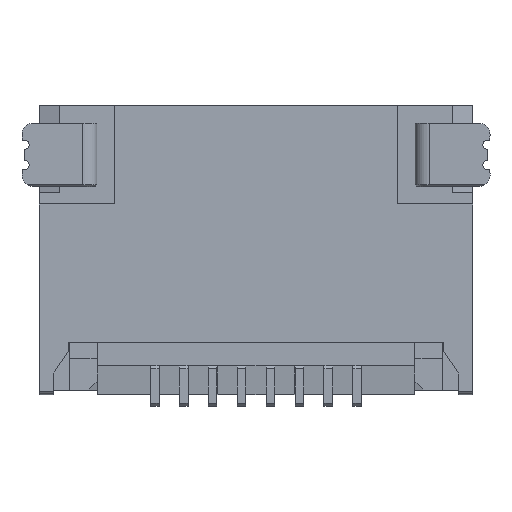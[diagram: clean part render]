
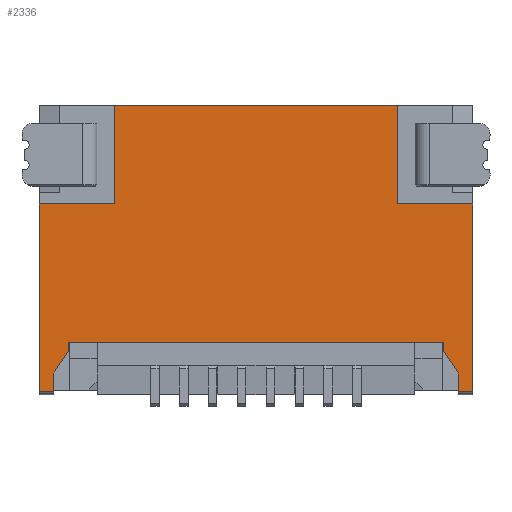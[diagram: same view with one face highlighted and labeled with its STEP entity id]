
A CAD part, front view. The second image highlights one B-rep face of the part: STEP entity #2336.
In plain terms, the highlighted planar face has unit normal (0, -1, 0).
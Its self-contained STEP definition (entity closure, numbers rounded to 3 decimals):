
#28 = CARTESIAN_POINT ( 'NONE',  ( 8., 0.05, 3.5 ) ) ;
#48 = DIRECTION ( 'NONE',  ( 1., 0., 0. ) ) ;
#166 = DIRECTION ( 'NONE',  ( 0., 0., 1. ) ) ;
#178 = EDGE_CURVE ( 'NONE', #4679, #5933, #5283, .T. ) ;
#260 = CARTESIAN_POINT ( 'NONE',  ( -3.5, 0.05, 0.248 ) ) ;
#300 = ORIENTED_EDGE ( 'NONE', *, *, #4858, .F. ) ;
#305 = VECTOR ( 'NONE', #2780, 1000. ) ;
#347 = CARTESIAN_POINT ( 'NONE',  ( 3.75, 0.05, 2.685 ) ) ;
#417 = VECTOR ( 'NONE', #3793, 1000. ) ;
#419 = VERTEX_POINT ( 'NONE', #1356 ) ;
#429 = FACE_OUTER_BOUND ( 'NONE', #4729, .T. ) ;
#550 = DIRECTION ( 'NONE',  ( 0., 0., -1. ) ) ;
#561 = EDGE_CURVE ( 'NONE', #2076, #5244, #3256, .T. ) ;
#599 = LINE ( 'NONE', #3841, #417 ) ;
#678 = DIRECTION ( 'NONE',  ( -0.555, 0., 0.832 ) ) ;
#683 = VERTEX_POINT ( 'NONE', #5431 ) ;
#700 = EDGE_CURVE ( 'NONE', #1455, #683, #5705, .T. ) ;
#762 = ORIENTED_EDGE ( 'NONE', *, *, #2876, .F. ) ;
#769 = CARTESIAN_POINT ( 'NONE',  ( -3.25, 0.05, 1.025 ) ) ;
#830 = CARTESIAN_POINT ( 'NONE',  ( -3.25, 0.05, 1.1 ) ) ;
#869 = AXIS2_PLACEMENT_3D ( 'NONE', #5988, #5893, #5878 ) ;
#941 = EDGE_CURVE ( 'NONE', #3398, #2076, #6726, .T. ) ;
#958 = CARTESIAN_POINT ( 'NONE',  ( 3.375, 0.05, 0.763 ) ) ;
#976 = DIRECTION ( 'NONE',  ( -1., 0., 0. ) ) ;
#990 = EDGE_CURVE ( 'NONE', #5933, #3550, #3877, .T. ) ;
#1035 = ORIENTED_EDGE ( 'NONE', *, *, #990, .F. ) ;
#1161 = DIRECTION ( 'NONE',  ( 0., 0., -1. ) ) ;
#1200 = VECTOR ( 'NONE', #48, 1000. ) ;
#1235 = DIRECTION ( 'NONE',  ( 0., 0., 1. ) ) ;
#1278 = CARTESIAN_POINT ( 'NONE',  ( -2.45, 0.05, 2.724 ) ) ;
#1305 = VECTOR ( 'NONE', #4541, 1000. ) ;
#1356 = CARTESIAN_POINT ( 'NONE',  ( -3.75, 0.05, 0.248 ) ) ;
#1429 = CARTESIAN_POINT ( 'NONE',  ( -8., 0.05, 3.5 ) ) ;
#1436 = DIRECTION ( 'NONE',  ( 1., 0., 0. ) ) ;
#1455 = VERTEX_POINT ( 'NONE', #3444 ) ;
#1476 = LINE ( 'NONE', #4627, #1305 ) ;
#1544 = ORIENTED_EDGE ( 'NONE', *, *, #4625, .F. ) ;
#1630 = LINE ( 'NONE', #1863, #3045 ) ;
#1834 = VERTEX_POINT ( 'NONE', #260 ) ;
#1839 = EDGE_CURVE ( 'NONE', #2230, #4010, #3950, .T. ) ;
#1863 = CARTESIAN_POINT ( 'NONE',  ( -3.75, 0.05, 2.685 ) ) ;
#1908 = ORIENTED_EDGE ( 'NONE', *, *, #700, .F. ) ;
#2029 = VECTOR ( 'NONE', #6744, 1000. ) ;
#2076 = VERTEX_POINT ( 'NONE', #2351 ) ;
#2163 = CARTESIAN_POINT ( 'NONE',  ( 3.75, 0.05, 3.5 ) ) ;
#2224 = CARTESIAN_POINT ( 'NONE',  ( 3.5, 0.05, 0.575 ) ) ;
#2230 = VERTEX_POINT ( 'NONE', #6457 ) ;
#2285 = CARTESIAN_POINT ( 'NONE',  ( 8., 0.05, 0.248 ) ) ;
#2336 = ADVANCED_FACE ( 'NONE', ( #429 ), #5925, .F. ) ;
#2351 = CARTESIAN_POINT ( 'NONE',  ( 3.25, 0.05, 0.95 ) ) ;
#2355 = VECTOR ( 'NONE', #550, 1000. ) ;
#2418 = VECTOR ( 'NONE', #5385, 1000. ) ;
#2530 = EDGE_CURVE ( 'NONE', #1834, #3550, #1476, .T. ) ;
#2558 = ORIENTED_EDGE ( 'NONE', *, *, #3602, .F. ) ;
#2579 = LINE ( 'NONE', #3827, #2418 ) ;
#2588 = VECTOR ( 'NONE', #166, 1000. ) ;
#2624 = EDGE_CURVE ( 'NONE', #5244, #4679, #599, .T. ) ;
#2780 = DIRECTION ( 'NONE',  ( 1., 0., 0. ) ) ;
#2876 = EDGE_CURVE ( 'NONE', #3929, #5748, #4245, .T. ) ;
#3045 = VECTOR ( 'NONE', #1161, 1000. ) ;
#3052 = VECTOR ( 'NONE', #1235, 1000. ) ;
#3141 = VERTEX_POINT ( 'NONE', #3986 ) ;
#3248 = EDGE_CURVE ( 'NONE', #3141, #419, #1630, .T. ) ;
#3256 = LINE ( 'NONE', #6900, #2029 ) ;
#3310 = ORIENTED_EDGE ( 'NONE', *, *, #6646, .F. ) ;
#3398 = VERTEX_POINT ( 'NONE', #2224 ) ;
#3399 = LINE ( 'NONE', #5928, #305 ) ;
#3444 = CARTESIAN_POINT ( 'NONE',  ( 2.45, 0.05, 5.2 ) ) ;
#3550 = VERTEX_POINT ( 'NONE', #4807 ) ;
#3561 = ORIENTED_EDGE ( 'NONE', *, *, #2530, .T. ) ;
#3602 = EDGE_CURVE ( 'NONE', #3141, #3929, #3691, .T. ) ;
#3639 = LINE ( 'NONE', #5189, #6118 ) ;
#3649 = CARTESIAN_POINT ( 'NONE',  ( -2.45, 0.05, 3.5 ) ) ;
#3691 = LINE ( 'NONE', #28, #1200 ) ;
#3697 = ORIENTED_EDGE ( 'NONE', *, *, #6064, .T. ) ;
#3731 = CARTESIAN_POINT ( 'NONE',  ( -3.25, 0.05, 0.95 ) ) ;
#3750 = LINE ( 'NONE', #1429, #5295 ) ;
#3793 = DIRECTION ( 'NONE',  ( -1., 0., 0. ) ) ;
#3827 = CARTESIAN_POINT ( 'NONE',  ( 3.5, 0.05, 0.386 ) ) ;
#3841 = CARTESIAN_POINT ( 'NONE',  ( 8., 0.05, 1.1 ) ) ;
#3859 = VERTEX_POINT ( 'NONE', #4377 ) ;
#3877 = LINE ( 'NONE', #6839, #6382 ) ;
#3929 = VERTEX_POINT ( 'NONE', #3649 ) ;
#3950 = LINE ( 'NONE', #347, #2588 ) ;
#3986 = CARTESIAN_POINT ( 'NONE',  ( -3.75, 0.05, 3.5 ) ) ;
#4006 = ORIENTED_EDGE ( 'NONE', *, *, #178, .F. ) ;
#4010 = VERTEX_POINT ( 'NONE', #2163 ) ;
#4158 = ORIENTED_EDGE ( 'NONE', *, *, #1839, .T. ) ;
#4170 = ORIENTED_EDGE ( 'NONE', *, *, #561, .F. ) ;
#4245 = LINE ( 'NONE', #1278, #3052 ) ;
#4377 = CARTESIAN_POINT ( 'NONE',  ( 3.5, 0.05, 0.248 ) ) ;
#4541 = DIRECTION ( 'NONE',  ( 0., 0., 1. ) ) ;
#4549 = DIRECTION ( 'NONE',  ( 0., 0., -1. ) ) ;
#4625 = EDGE_CURVE ( 'NONE', #683, #4010, #3750, .T. ) ;
#4627 = CARTESIAN_POINT ( 'NONE',  ( -3.5, 0.05, 0.386 ) ) ;
#4679 = VERTEX_POINT ( 'NONE', #830 ) ;
#4717 = CARTESIAN_POINT ( 'NONE',  ( 2.45, 0.05, 2.724 ) ) ;
#4729 = EDGE_LOOP ( 'NONE', ( #5419, #4170, #6181, #3697, #6693, #4158, #1544, #1908, #3310, #762, #2558, #5324, #300, #3561, #1035, #4006 ) ) ;
#4807 = CARTESIAN_POINT ( 'NONE',  ( -3.5, 0.05, 0.575 ) ) ;
#4858 = EDGE_CURVE ( 'NONE', #1834, #419, #5072, .T. ) ;
#5072 = LINE ( 'NONE', #2285, #6499 ) ;
#5189 = CARTESIAN_POINT ( 'NONE',  ( -8., 0.05, 0.248 ) ) ;
#5244 = VERTEX_POINT ( 'NONE', #5757 ) ;
#5275 = VECTOR ( 'NONE', #678, 1000. ) ;
#5283 = LINE ( 'NONE', #769, #2355 ) ;
#5295 = VECTOR ( 'NONE', #1436, 1000. ) ;
#5324 = ORIENTED_EDGE ( 'NONE', *, *, #3248, .T. ) ;
#5353 = VECTOR ( 'NONE', #4549, 1000. ) ;
#5378 = DIRECTION ( 'NONE',  ( -1., 0., 0. ) ) ;
#5385 = DIRECTION ( 'NONE',  ( 0., 0., -1. ) ) ;
#5419 = ORIENTED_EDGE ( 'NONE', *, *, #2624, .F. ) ;
#5431 = CARTESIAN_POINT ( 'NONE',  ( 2.45, 0.05, 3.5 ) ) ;
#5681 = CARTESIAN_POINT ( 'NONE',  ( -2.45, 0.05, 5.2 ) ) ;
#5705 = LINE ( 'NONE', #4717, #5353 ) ;
#5748 = VERTEX_POINT ( 'NONE', #5681 ) ;
#5757 = CARTESIAN_POINT ( 'NONE',  ( 3.25, 0.05, 1.1 ) ) ;
#5878 = DIRECTION ( 'NONE',  ( 0., 0., 1. ) ) ;
#5893 = DIRECTION ( 'NONE',  ( 0., 1., 0. ) ) ;
#5925 = PLANE ( 'NONE',  #869 ) ;
#5928 = CARTESIAN_POINT ( 'NONE',  ( 8., 0.05, 5.2 ) ) ;
#5933 = VERTEX_POINT ( 'NONE', #3731 ) ;
#5988 = CARTESIAN_POINT ( 'NONE',  ( -3.75, 0.05, 0.248 ) ) ;
#6064 = EDGE_CURVE ( 'NONE', #3398, #3859, #2579, .T. ) ;
#6118 = VECTOR ( 'NONE', #976, 1000. ) ;
#6181 = ORIENTED_EDGE ( 'NONE', *, *, #941, .F. ) ;
#6382 = VECTOR ( 'NONE', #6844, 1000. ) ;
#6423 = EDGE_CURVE ( 'NONE', #2230, #3859, #3639, .T. ) ;
#6457 = CARTESIAN_POINT ( 'NONE',  ( 3.75, 0.05, 0.248 ) ) ;
#6499 = VECTOR ( 'NONE', #5378, 1000. ) ;
#6646 = EDGE_CURVE ( 'NONE', #5748, #1455, #3399, .T. ) ;
#6693 = ORIENTED_EDGE ( 'NONE', *, *, #6423, .F. ) ;
#6726 = LINE ( 'NONE', #958, #5275 ) ;
#6744 = DIRECTION ( 'NONE',  ( 0., 0., 1. ) ) ;
#6839 = CARTESIAN_POINT ( 'NONE',  ( -3.375, 0.05, 0.763 ) ) ;
#6844 = DIRECTION ( 'NONE',  ( -0.555, 0., -0.832 ) ) ;
#6900 = CARTESIAN_POINT ( 'NONE',  ( 3.25, 0.05, 1.025 ) ) ;
